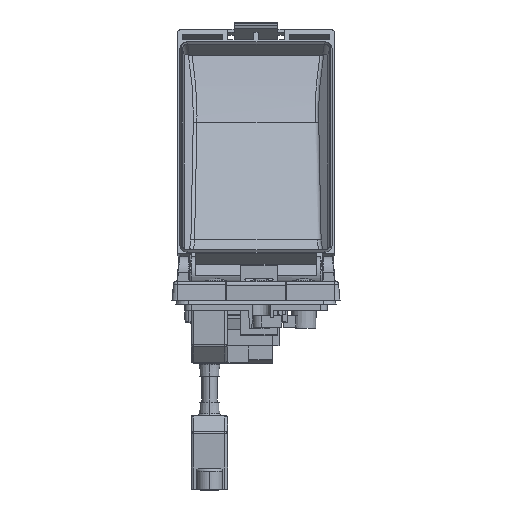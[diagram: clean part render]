
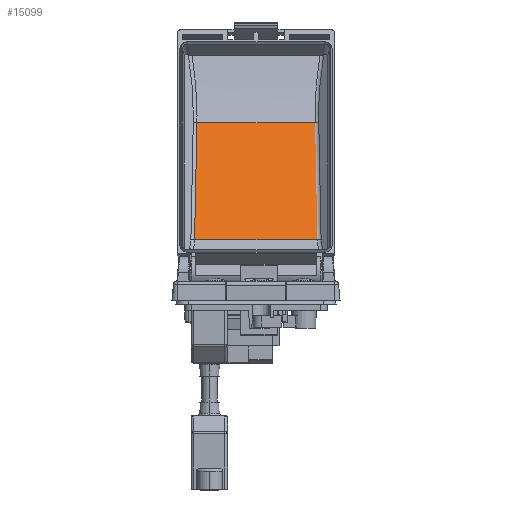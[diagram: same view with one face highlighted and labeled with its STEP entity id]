
A CAD part, left-side view. The second image highlights one B-rep face of the part: STEP entity #15099.
In plain terms, the highlighted planar face has unit normal (-0.865, 0, 0.502).
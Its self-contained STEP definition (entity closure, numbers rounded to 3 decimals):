
#512 = AXIS2_PLACEMENT_3D ( 'NONE', #69400, #25957, #63389 ) ;
#926 = EDGE_CURVE ( 'NONE', #1609, #4227, #62960, .T. ) ;
#1609 = VERTEX_POINT ( 'NONE', #31670 ) ;
#4227 = VERTEX_POINT ( 'NONE', #62949 ) ;
#9325 = B_SPLINE_CURVE_WITH_KNOTS ( 'NONE', 3,
 ( #75401, #80924, #37428, #31426 ),
 .UNSPECIFIED., .F., .F.,
 ( 4, 4 ),
 ( 0., 1. ),
 .UNSPECIFIED. ) ;
#9405 = EDGE_CURVE ( 'NONE', #77645, #4227, #48686, .T. ) ;
#10070 = ORIENTED_EDGE ( 'NONE', *, *, #926, .T. ) ;
#13914 = EDGE_CURVE ( 'NONE', #68939, #77645, #32608, .T. ) ;
#15099 = ADVANCED_FACE ( 'NONE', ( #71557 ), #75417, .F. ) ;
#17828 = CARTESIAN_POINT ( 'NONE',  ( 71.612, 243.595, 16.093 ) ) ;
#22825 = VECTOR ( 'NONE', #68486, 1000. ) ;
#24180 = DIRECTION ( 'NONE',  ( 0.502, -0.017, 0.865 ) ) ;
#25957 = DIRECTION ( 'NONE',  ( 0.865, 0., -0.502 ) ) ;
#27701 = EDGE_CURVE ( 'NONE', #68939, #1609, #9325, .T. ) ;
#31426 = CARTESIAN_POINT ( 'NONE',  ( 97.905, 196.988, 61.35 ) ) ;
#31670 = CARTESIAN_POINT ( 'NONE',  ( 97.905, 196.988, 61.35 ) ) ;
#31689 = ORIENTED_EDGE ( 'NONE', *, *, #9405, .F. ) ;
#32608 = LINE ( 'NONE', #70352, #80555 ) ;
#32915 = DIRECTION ( 'NONE',  ( 0., 1., 0. ) ) ;
#36784 = CARTESIAN_POINT ( 'NONE',  ( 97.905, 189.435, 61.35 ) ) ;
#37428 = CARTESIAN_POINT ( 'NONE',  ( 89.141, 196.683, 46.264 ) ) ;
#48686 = LINE ( 'NONE', #17828, #79957 ) ;
#49947 = CARTESIAN_POINT ( 'NONE',  ( 71.612, 243.595, 16.093 ) ) ;
#55649 = CARTESIAN_POINT ( 'NONE',  ( 71.612, 196.074, 16.093 ) ) ;
#62103 = EDGE_LOOP ( 'NONE', ( #31689, #75563, #80106, #10070 ) ) ;
#62949 = CARTESIAN_POINT ( 'NONE',  ( 97.905, 242.682, 61.35 ) ) ;
#62960 = LINE ( 'NONE', #36784, #22825 ) ;
#63389 = DIRECTION ( 'NONE',  ( -0.502, 0., -0.865 ) ) ;
#68486 = DIRECTION ( 'NONE',  ( 0., 1., 0. ) ) ;
#68939 = VERTEX_POINT ( 'NONE', #55649 ) ;
#69400 = CARTESIAN_POINT ( 'NONE',  ( 97.905, 189.435, 61.35 ) ) ;
#70352 = CARTESIAN_POINT ( 'NONE',  ( 71.612, 189.435, 16.093 ) ) ;
#71557 = FACE_OUTER_BOUND ( 'NONE', #62103, .T. ) ;
#75401 = CARTESIAN_POINT ( 'NONE',  ( 71.612, 196.074, 16.093 ) ) ;
#75417 = PLANE ( 'NONE',  #512 ) ;
#75563 = ORIENTED_EDGE ( 'NONE', *, *, #13914, .F. ) ;
#77645 = VERTEX_POINT ( 'NONE', #49947 ) ;
#79957 = VECTOR ( 'NONE', #24180, 1000. ) ;
#80106 = ORIENTED_EDGE ( 'NONE', *, *, #27701, .T. ) ;
#80555 = VECTOR ( 'NONE', #32915, 1000. ) ;
#80924 = CARTESIAN_POINT ( 'NONE',  ( 80.377, 196.379, 31.179 ) ) ;
